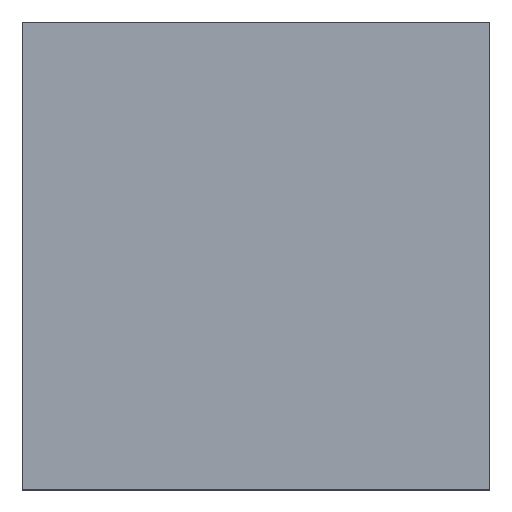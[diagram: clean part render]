
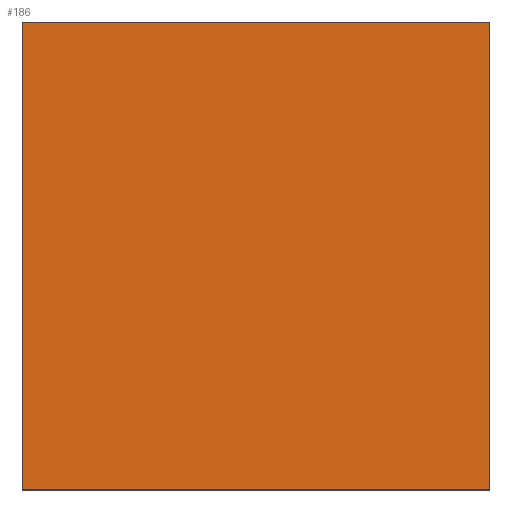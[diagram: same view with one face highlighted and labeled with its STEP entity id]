
A CAD part, top view. The second image highlights one B-rep face of the part: STEP entity #186.
In plain terms, the highlighted planar face has unit normal (0, 0, 1).
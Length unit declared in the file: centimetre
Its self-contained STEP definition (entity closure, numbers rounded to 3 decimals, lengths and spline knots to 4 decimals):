
#9 = EDGE_CURVE ( 'NONE', #255, #513, #643, .T. ) ;
#17 = CARTESIAN_POINT ( 'NONE',  ( 0., 0., 1000. ) ) ;
#18 = CARTESIAN_POINT ( 'NONE',  ( 0., 0., 1000. ) ) ;
#57 = CARTESIAN_POINT ( 'NONE',  ( 1000., 1000., 1000. ) ) ;
#71 = VECTOR ( 'NONE', #397, 100. ) ;
#95 = VERTEX_POINT ( 'NONE', #833 ) ;
#100 = EDGE_CURVE ( 'NONE', #95, #274, #250, .T. ) ;
#185 = DIRECTION ( 'NONE',  ( 0., -1., 0. ) ) ;
#186 = ADVANCED_FACE ( 'NONE', ( #650 ), #333, .T. ) ;
#190 = VECTOR ( 'NONE', #313, 100. ) ;
#211 = EDGE_LOOP ( 'NONE', ( #832, #375, #343, #701 ) ) ;
#224 = VECTOR ( 'NONE', #461, 100. ) ;
#250 = LINE ( 'NONE', #717, #327 ) ;
#255 = VERTEX_POINT ( 'NONE', #355 ) ;
#274 = VERTEX_POINT ( 'NONE', #674 ) ;
#294 = LINE ( 'NONE', #557, #71 ) ;
#298 = CARTESIAN_POINT ( 'NONE',  ( 1000., 1000., 1000. ) ) ;
#313 = DIRECTION ( 'NONE',  ( 0., 1., 0. ) ) ;
#327 = VECTOR ( 'NONE', #185, 100. ) ;
#333 = PLANE ( 'NONE',  #778 ) ;
#343 = ORIENTED_EDGE ( 'NONE', *, *, #9, .T. ) ;
#355 = CARTESIAN_POINT ( 'NONE',  ( 1000., 0., 1000. ) ) ;
#375 = ORIENTED_EDGE ( 'NONE', *, *, #623, .T. ) ;
#386 = LINE ( 'NONE', #17, #224 ) ;
#397 = DIRECTION ( 'NONE',  ( -1., 0., 0. ) ) ;
#461 = DIRECTION ( 'NONE',  ( 1., 0., 0. ) ) ;
#513 = VERTEX_POINT ( 'NONE', #298 ) ;
#514 = DIRECTION ( 'NONE',  ( 1., 0., 0. ) ) ;
#557 = CARTESIAN_POINT ( 'NONE',  ( 0., 1000., 1000. ) ) ;
#565 = EDGE_CURVE ( 'NONE', #513, #95, #294, .T. ) ;
#582 = DIRECTION ( 'NONE',  ( 0., 0., 1. ) ) ;
#623 = EDGE_CURVE ( 'NONE', #274, #255, #386, .T. ) ;
#643 = LINE ( 'NONE', #57, #190 ) ;
#650 = FACE_OUTER_BOUND ( 'NONE', #211, .T. ) ;
#674 = CARTESIAN_POINT ( 'NONE',  ( 0., 0., 1000. ) ) ;
#701 = ORIENTED_EDGE ( 'NONE', *, *, #565, .T. ) ;
#717 = CARTESIAN_POINT ( 'NONE',  ( 0., 1000., 1000. ) ) ;
#778 = AXIS2_PLACEMENT_3D ( 'NONE', #18, #582, #514 ) ;
#832 = ORIENTED_EDGE ( 'NONE', *, *, #100, .T. ) ;
#833 = CARTESIAN_POINT ( 'NONE',  ( 0., 1000., 1000. ) ) ;
